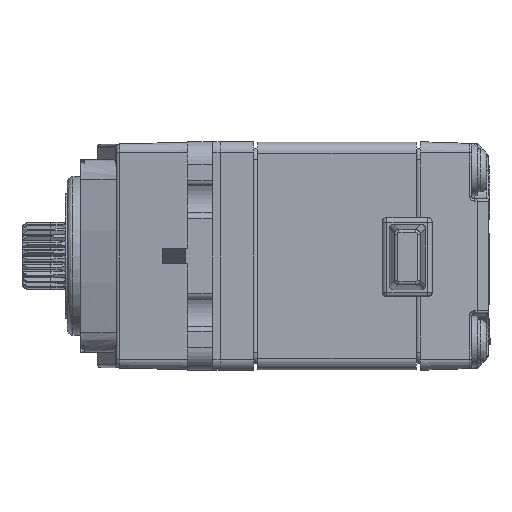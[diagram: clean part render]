
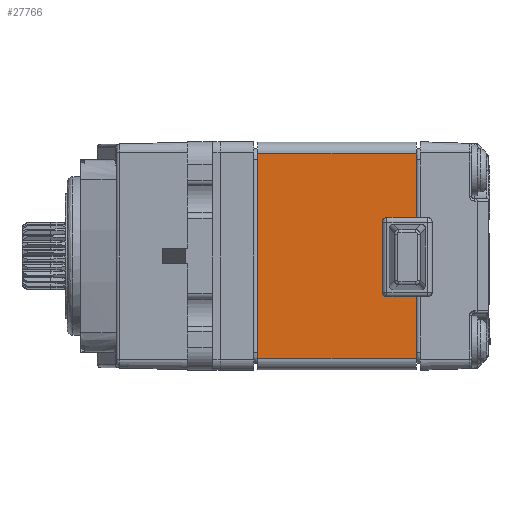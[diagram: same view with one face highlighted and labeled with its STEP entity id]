
A CAD part, left-side view. The second image highlights one B-rep face of the part: STEP entity #27766.
In plain terms, the highlighted planar face has unit normal (-1, 0, 0).
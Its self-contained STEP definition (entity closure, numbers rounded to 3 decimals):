
#57 = DIRECTION ( 'NONE',  ( -1., 0., 0. ) ) ;
#620 = CARTESIAN_POINT ( 'NONE',  ( -10.3, -4., -9.05 ) ) ;
#935 = CARTESIAN_POINT ( 'NONE',  ( -10.3, -15., -9.05 ) ) ;
#3283 = CIRCLE ( 'NONE', #49660, 0.4 ) ;
#7908 = CARTESIAN_POINT ( 'NONE',  ( -10.3, -18., -9.05 ) ) ;
#8316 = LINE ( 'NONE', #7908, #36947 ) ;
#9221 = EDGE_CURVE ( 'NONE', #76371, #81577, #55483, .T. ) ;
#9625 = DIRECTION ( 'NONE',  ( 0., 0., 1. ) ) ;
#10339 = EDGE_CURVE ( 'NONE', #19919, #44301, #42679, .T. ) ;
#10435 = LINE ( 'NONE', #27827, #25150 ) ;
#10585 = CARTESIAN_POINT ( 'NONE',  ( -10.3, -15.4, -3.6 ) ) ;
#11107 = DIRECTION ( 'NONE',  ( 0., 0., 1. ) ) ;
#11518 = DIRECTION ( 'NONE',  ( -1., 0., 0. ) ) ;
#12415 = ORIENTED_EDGE ( 'NONE', *, *, #50447, .T. ) ;
#15398 = ORIENTED_EDGE ( 'NONE', *, *, #77571, .T. ) ;
#16581 = DIRECTION ( 'NONE',  ( 0., -1., 0. ) ) ;
#16631 = CARTESIAN_POINT ( 'NONE',  ( -10.3, -18., 9.05 ) ) ;
#17328 = CARTESIAN_POINT ( 'NONE',  ( -10.3, -15.4, 3. ) ) ;
#18323 = LINE ( 'NONE', #68943, #68726 ) ;
#19561 = PLANE ( 'NONE',  #77176 ) ;
#19885 = CARTESIAN_POINT ( 'NONE',  ( -10.3, -15.4, -3.2 ) ) ;
#19919 = VERTEX_POINT ( 'NONE', #38904 ) ;
#20384 = VECTOR ( 'NONE', #81006, 1000. ) ;
#20389 = LINE ( 'NONE', #935, #27449 ) ;
#20453 = CARTESIAN_POINT ( 'NONE',  ( -10.3, -4., 9.05 ) ) ;
#21951 = ORIENTED_EDGE ( 'NONE', *, *, #34322, .T. ) ;
#24126 = DIRECTION ( 'NONE',  ( 0., 0., 1. ) ) ;
#24533 = CARTESIAN_POINT ( 'NONE',  ( -10.3, -18., 9.05 ) ) ;
#25150 = VECTOR ( 'NONE', #9625, 1000. ) ;
#25364 = CARTESIAN_POINT ( 'NONE',  ( -10.3, -15., -3.2 ) ) ;
#25871 = VERTEX_POINT ( 'NONE', #34444 ) ;
#27449 = VECTOR ( 'NONE', #45712, 1000. ) ;
#27766 = ADVANCED_FACE ( 'NONE', ( #57337 ), #19561, .T. ) ;
#27827 = CARTESIAN_POINT ( 'NONE',  ( -10.3, -18., -9.05 ) ) ;
#30273 = LINE ( 'NONE', #16631, #20384 ) ;
#30993 = DIRECTION ( 'NONE',  ( 0., -1., 0. ) ) ;
#31259 = CARTESIAN_POINT ( 'NONE',  ( -10.3, -15., 3. ) ) ;
#32385 = VERTEX_POINT ( 'NONE', #24533 ) ;
#33482 = LINE ( 'NONE', #51010, #50527 ) ;
#34322 = EDGE_CURVE ( 'NONE', #78902, #81577, #33482, .T. ) ;
#34347 = DIRECTION ( 'NONE',  ( 0., 0., 1. ) ) ;
#34444 = CARTESIAN_POINT ( 'NONE',  ( -10.3, -18., -9.05 ) ) ;
#34683 = ORIENTED_EDGE ( 'NONE', *, *, #78268, .T. ) ;
#34886 = ORIENTED_EDGE ( 'NONE', *, *, #76355, .T. ) ;
#35752 = VERTEX_POINT ( 'NONE', #20453 ) ;
#36947 = VECTOR ( 'NONE', #34347, 1000. ) ;
#37817 = CARTESIAN_POINT ( 'NONE',  ( -10.3, -18., -9.05 ) ) ;
#37863 = ORIENTED_EDGE ( 'NONE', *, *, #9221, .F. ) ;
#38204 = AXIS2_PLACEMENT_3D ( 'NONE', #19885, #57, #45256 ) ;
#38604 = EDGE_CURVE ( 'NONE', #19919, #40905, #3283, .T. ) ;
#38904 = CARTESIAN_POINT ( 'NONE',  ( -10.3, -15.4, 3.4 ) ) ;
#40905 = VERTEX_POINT ( 'NONE', #31259 ) ;
#41937 = VECTOR ( 'NONE', #30993, 1000. ) ;
#42679 = LINE ( 'NONE', #62176, #41937 ) ;
#43005 = VERTEX_POINT ( 'NONE', #620 ) ;
#43998 = ORIENTED_EDGE ( 'NONE', *, *, #60864, .F. ) ;
#44301 = VERTEX_POINT ( 'NONE', #69912 ) ;
#45256 = DIRECTION ( 'NONE',  ( 0., 0., 1. ) ) ;
#45712 = DIRECTION ( 'NONE',  ( 0., 0., 1. ) ) ;
#48964 = CARTESIAN_POINT ( 'NONE',  ( -10.3, -18., -9.05 ) ) ;
#49660 = AXIS2_PLACEMENT_3D ( 'NONE', #17328, #11518, #11107 ) ;
#50395 = VECTOR ( 'NONE', #16581, 1000. ) ;
#50447 = EDGE_CURVE ( 'NONE', #32385, #35752, #30273, .T. ) ;
#50527 = VECTOR ( 'NONE', #76292, 1000. ) ;
#51010 = CARTESIAN_POINT ( 'NONE',  ( -10.3, -18., -3.6 ) ) ;
#55399 = ORIENTED_EDGE ( 'NONE', *, *, #10339, .T. ) ;
#55483 = CIRCLE ( 'NONE', #38204, 0.4 ) ;
#57337 = FACE_OUTER_BOUND ( 'NONE', #78291, .T. ) ;
#58066 = ORIENTED_EDGE ( 'NONE', *, *, #38604, .F. ) ;
#60864 = EDGE_CURVE ( 'NONE', #43005, #35752, #18323, .T. ) ;
#62176 = CARTESIAN_POINT ( 'NONE',  ( -10.3, -18., 3.4 ) ) ;
#62323 = EDGE_CURVE ( 'NONE', #44301, #32385, #10435, .T. ) ;
#62767 = DIRECTION ( 'NONE',  ( -1., 0., 0. ) ) ;
#68726 = VECTOR ( 'NONE', #24126, 1000. ) ;
#68943 = CARTESIAN_POINT ( 'NONE',  ( -10.3, -4., -9.05 ) ) ;
#69880 = CARTESIAN_POINT ( 'NONE',  ( -10.3, -18., -3.6 ) ) ;
#69912 = CARTESIAN_POINT ( 'NONE',  ( -10.3, -18., 3.4 ) ) ;
#71377 = ORIENTED_EDGE ( 'NONE', *, *, #62323, .T. ) ;
#76292 = DIRECTION ( 'NONE',  ( 0., 1., 0. ) ) ;
#76355 = EDGE_CURVE ( 'NONE', #76371, #40905, #20389, .T. ) ;
#76371 = VERTEX_POINT ( 'NONE', #25364 ) ;
#77176 = AXIS2_PLACEMENT_3D ( 'NONE', #37817, #62767, #81888 ) ;
#77571 = EDGE_CURVE ( 'NONE', #25871, #78902, #8316, .T. ) ;
#78268 = EDGE_CURVE ( 'NONE', #43005, #25871, #79297, .T. ) ;
#78291 = EDGE_LOOP ( 'NONE', ( #58066, #55399, #71377, #12415, #43998, #34683, #15398, #21951, #37863, #34886 ) ) ;
#78902 = VERTEX_POINT ( 'NONE', #69880 ) ;
#79297 = LINE ( 'NONE', #48964, #50395 ) ;
#81006 = DIRECTION ( 'NONE',  ( 0., 1., 0. ) ) ;
#81577 = VERTEX_POINT ( 'NONE', #10585 ) ;
#81888 = DIRECTION ( 'NONE',  ( 0., 1., 0. ) ) ;
